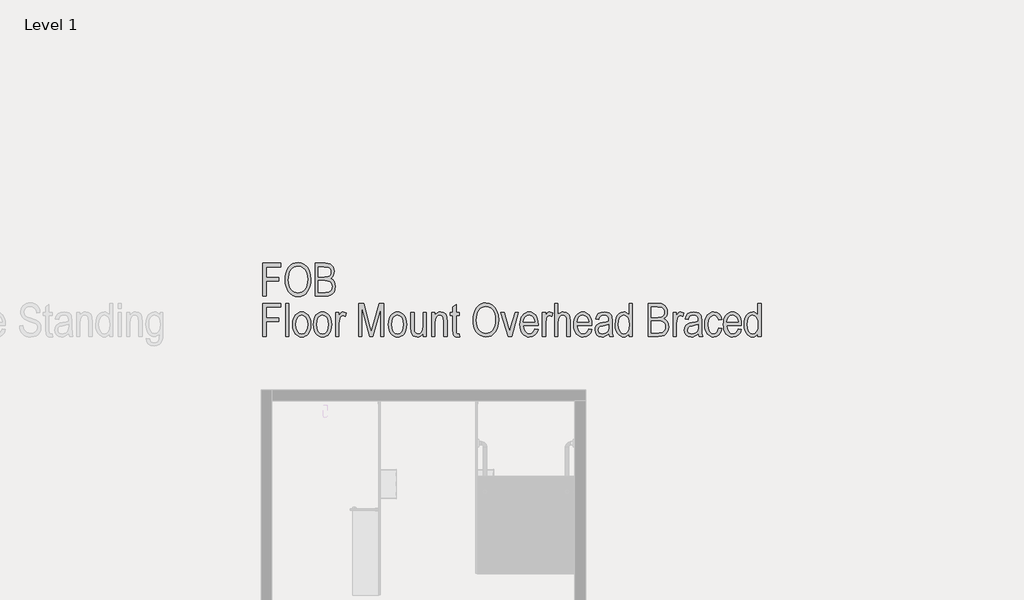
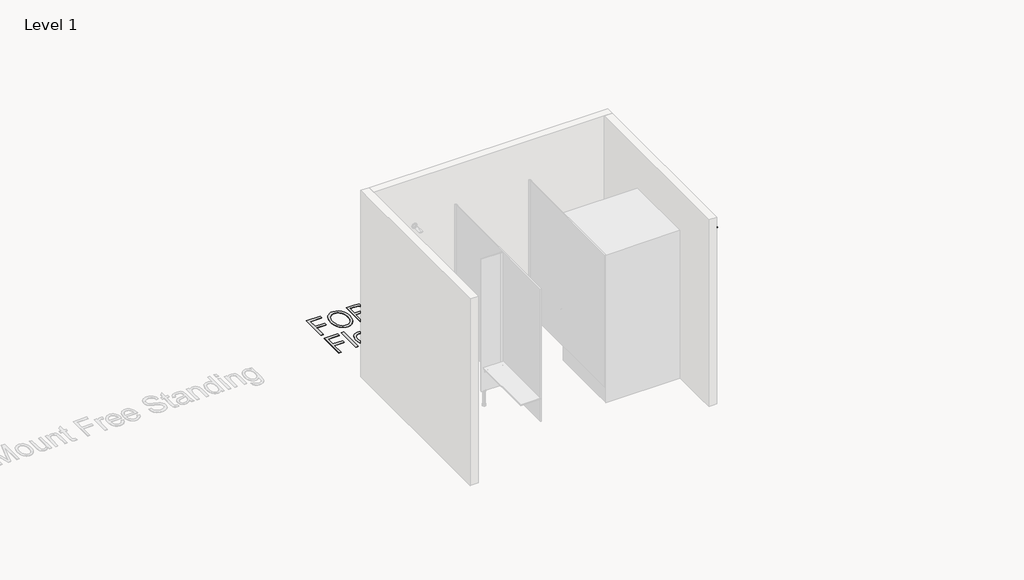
# One storey, part 21 of 21: 1 proxy.
"""IFC4 building model written with IfcOpenShell, lengths in millimetres."""

from ifc_helpers import new_model, si_unit, origin, origin_with_axes, place, context, project, spatial, polyline, outline, extrude, element, save

model = new_model("IFC4")

# Units and contexts
model_context = context("Model", 3, world=origin())
ifc_project = project(units=[si_unit("LENGTHUNIT", "METRE", prefix="MILLI")], contexts=[model_context])

# Site, building, storey
site = spatial("IfcSite", under=ifc_project)
building = spatial("IfcBuilding", under=site)
storey = spatial("IfcBuildingStorey", under=building, Name="Level 1", Elevation=0.0)

# Proxy
placement = place(None, origin())
element("IfcBuildingElementProxy", 1, Name="Arial Narrow-300mm", ObjectType="Arial Narrow-300mm", at=placement, inside=storey, context=model_context, shape_type="SweptSolid", body=[
    extrude(outline(polyline([(-1218.8829157, 11023.6753804), (-1218.8829157, 11328.8527498), (-1051.5275841, 11328.8527498), (-1051.5275841, 11294.3972403), (-1189.3496219, 11294.3972403), (-1189.3496219, 11195.9529276), (-1071.2164466, 11195.9529276), (-1071.2164466, 11161.4974182), (-1189.3496219, 11161.4974182), (-1189.3496219, 11023.6753804), (-1218.8829157, 11023.6753804)])), origin_with_axes(), (0.0, 0.0, 1.0), 5.0),
    extrude(outline(polyline([(-1012.149859, 11172.1878553), (-1010.0300376, 11208.8881642), (-1003.6705735, 11241.0796468), (-993.0714666, 11268.7623029), (-978.2327169, 11291.9361325), (-960.235866, 11310.2406219), (-940.1624554, 11323.3152572), (-918.012485, 11331.1600384), (-893.7859549, 11333.7749654), (-862.5991043, 11329.102706), (-834.2579096, 11315.0859279), (-810.1371302, 11292.1668614), (-791.6115257, 11260.7877367), (-779.8155128, 11221.7753323), (-775.8835085, 11175.9564266), (-777.7822148, 11143.6832276), (-783.4783334, 11114.5440956), (-792.9718646, 11088.5390306), (-806.2628082, 11065.6680325), (-824.3221481, 11045.1427779), (-844.9675741, 11030.4818817), (-868.199086, 11021.685344), (-894.0166838, 11018.7531648), (-920.016942, 11021.7622536), (-943.3349772, 11030.7895202), (-963.9707894, 11045.8349645), (-981.9243786, 11066.8985865), (-995.1480263, 11089.8320736), (-1004.5934889, 11115.0247807), (-1010.2607665, 11142.476708), (-1012.149859, 11172.1878553)]), holes=[polyline([(-982.6165652, 11171.7263976), (-981.0062701, 11145.1204761), (-976.1753846, 11121.6774628), (-968.1239088, 11101.3973576), (-956.8518427, 11084.2801604), (-943.2772949, 11070.6863852), (-928.318374, 11060.9765458), (-911.9750799, 11055.1506421), (-894.2474126, 11053.2086742), (-876.1303904, 11055.1698695), (-859.5419469, 11061.0534554), (-844.4820821, 11070.8594318), (-830.950796, 11084.5877989), (-819.7796738, 11102.1231921), (-811.8003008, 11123.350247), (-807.0126769, 11148.2689637), (-805.4168023, 11176.879342), (-808.7046886, 11214.1035978), (-818.5683472, 11247.1747341), (-831.2680481, 11268.497926), (-849.0630113, 11285.0911764), (-870.3573621, 11295.7623861), (-893.5552261, 11299.319456), (-912.116882, 11297.3702778), (-928.962492, 11291.5227433), (-944.0920562, 11281.7768525), (-957.5055745, 11268.1326053), (-968.4916329, 11250.4121484), (-976.3388175, 11228.4376281), (-981.0471283, 11202.2090445), (-982.6165652, 11171.7263976)])]), origin_with_axes(), (0.0, 0.0, 1.0), 5.0),
    extrude(outline(polyline([(-736.5057835, 11023.6753804), (-736.5057835, 11328.8527498), (-642.5222287, 11328.8527498), (-616.892098, 11326.680053), (-597.2224629, 11320.1619628), (-582.0520405, 11309.0389091), (-569.9195481, 11293.051322), (-561.9594025, 11273.6797116), (-559.3060206, 11252.4045882), (-561.4018077, 11232.7445668), (-567.6891691, 11215.1418776), (-577.7835566, 11200.2117978), (-591.3004222, 11188.5696042), (-573.9092346, 11177.7349616), (-560.6519389, 11161.2282345), (-552.2591767, 11139.6262452), (-549.4615893, 11113.5058157), (-552.2687904, 11087.13543), (-560.6903937, 11064.168295), (-573.7938701, 11045.8157371), (-590.6466905, 11033.2890828), (-612.8831841, 11026.078806), (-642.1376806, 11023.6753804), (-736.5057835, 11023.6753804)]), holes=[polyline([(-706.9724896, 11200.8751433), (-649.4440944, 11200.8751433), (-617.3727832, 11203.7977088), (-605.2499044, 11209.7582043), (-596.2610927, 11218.7181749), (-590.694759, 11231.0429414), (-588.8393144, 11247.0978245), (-590.5217123, 11262.3836113), (-595.5689061, 11274.862197), (-603.4136873, 11284.2259432), (-613.4888474, 11290.1672113), (-653.6741235, 11294.3972403), (-706.9724896, 11294.3972403), (-706.9724896, 11200.8751433)]), polyline([(-706.9724896, 11058.1308899), (-641.445494, 11058.1308899), (-609.4510924, 11061.9763708), (-596.3187749, 11069.3789217), (-586.7627547, 11080.3577698), (-580.936851, 11094.7783234), (-578.9948831, 11112.5059907), (-580.8599414, 11128.9742629), (-586.4551162, 11142.6930163), (-595.1939717, 11153.3738397), (-606.490072, 11160.728322), (-622.6699332, 11164.9968059), (-646.0600712, 11166.4196338), (-706.9724896, 11166.4196338), (-706.9724896, 11058.1308899)])]), origin_with_axes(), (0.0, 0.0, 1.0), 5.0),
    extrude(outline(polyline([(-1218.8829157, 10650.573168), (-1218.8829157, 10955.7505374), (-1051.5275841, 10955.7505374), (-1051.5275841, 10921.2950279), (-1189.3496219, 10921.2950279), (-1189.3496219, 10822.8507152), (-1071.2164466, 10822.8507152), (-1071.2164466, 10788.3952058), (-1189.3496219, 10788.3952058), (-1189.3496219, 10650.573168), (-1218.8829157, 10650.573168)])), origin_with_axes(), (0.0, 0.0, 1.0), 5.0),
    extrude(outline(polyline([(-1007.2276434, 10650.573168), (-1007.2276434, 10955.7505374), (-977.6943496, 10955.7505374), (-977.6943496, 10650.573168), (-1007.2276434, 10650.573168)])), origin_with_axes(), (0.0, 0.0, 1.0), 5.0),
    extrude(outline(polyline([(-943.2388401, 10761.3230198), (-941.75833, 10788.2149489), (-937.3167994, 10811.5930697), (-929.9142486, 10831.4573823), (-919.5506774, 10847.8078867), (-906.9182724, 10860.5772869), (-892.7092203, 10869.6982871), (-876.9235209, 10875.1708872), (-859.5611743, 10876.9950872), (-842.448784, 10875.1708872), (-826.7976765, 10869.6982871), (-812.6078518, 10860.5772869), (-799.8793098, 10847.8078867), (-789.3811467, 10831.6015879), (-781.8824588, 10812.1698919), (-777.3832461, 10789.5127987), (-775.8835085, 10763.6303084), (-777.3568084, 10735.7289405), (-781.7767081, 10711.629792), (-789.1432076, 10691.3328628), (-799.4563069, 10674.8381529), (-812.0526604, 10662.0687527), (-826.2689229, 10652.9477525), (-842.1050942, 10647.4751524), (-859.5611743, 10645.6509524), (-876.7672982, 10647.4799593), (-892.4688777, 10652.9669799), (-906.6659127, 10662.1120143), (-919.3584033, 10674.9150625), (-929.8060944, 10691.2896011), (-937.2687309, 10711.1491069), (-941.7463128, 10734.4935798), (-943.2388401, 10761.3230198)]), holes=[polyline([(-913.7055463, 10761.3999294), (-909.7543146, 10723.3681227), (-897.9006196, 10696.4882107), (-880.2017934, 10680.5102373), (-858.7151685, 10675.1842462), (-838.3533468, 10680.5583058), (-821.1063647, 10696.6804848), (-809.3391929, 10723.6084652), (-805.4168023, 10761.3999294), (-809.368034, 10799.3163717), (-821.2217291, 10826.1578289), (-838.9205553, 10842.1358023), (-860.4071801, 10847.4617934), (-880.9132074, 10842.1069612), (-898.1313484, 10826.0424644), (-909.8119968, 10799.1721662), (-913.7055463, 10761.3999294)])]), origin_with_axes(), (0.0, 0.0, 1.0), 5.0),
    extrude(outline(polyline([(-751.2724304, 10761.3230198), (-749.7919202, 10788.2149489), (-745.3503897, 10811.5930697), (-737.9478388, 10831.4573823), (-727.5842676, 10847.8078867), (-714.9518627, 10860.5772869), (-700.7428105, 10869.6982871), (-684.9571111, 10875.1708872), (-667.5947646, 10876.9950872), (-650.4823743, 10875.1708872), (-634.8312667, 10869.6982871), (-620.641442, 10860.5772869), (-607.9129, 10847.8078867), (-597.414737, 10831.6015879), (-589.9160491, 10812.1698919), (-585.4168363, 10789.5127987), (-583.9170988, 10763.6303084), (-585.3903987, 10735.7289405), (-589.8102984, 10711.629792), (-597.1767978, 10691.3328628), (-607.4898971, 10674.8381529), (-620.0862507, 10662.0687527), (-634.3025131, 10652.9477525), (-650.1386844, 10647.4751524), (-667.5947646, 10645.6509524), (-684.8008885, 10647.4799593), (-700.5024679, 10652.9669799), (-714.699503, 10662.1120143), (-727.3919936, 10674.9150625), (-737.8396847, 10691.2896011), (-745.3023212, 10711.1491069), (-749.7799031, 10734.4935798), (-751.2724304, 10761.3230198)]), holes=[polyline([(-721.7391366, 10761.3999294), (-717.7879049, 10723.3681227), (-705.9342098, 10696.4882107), (-688.2353836, 10680.5102373), (-666.7487588, 10675.1842462), (-646.386937, 10680.5583058), (-629.1399549, 10696.6804848), (-617.3727832, 10723.6084652), (-613.4503926, 10761.3999294), (-617.4016243, 10799.3163717), (-629.2553193, 10826.1578289), (-646.9541455, 10842.1358023), (-668.4407704, 10847.4617934), (-688.9467976, 10842.1069612), (-706.1649386, 10826.0424644), (-717.8455871, 10799.1721662), (-721.7391366, 10761.3999294)])]), origin_with_axes(), (0.0, 0.0, 1.0), 5.0),
    extrude(outline(polyline([(-544.5393737, 10650.573168), (-544.5393737, 10872.0728716), (-515.0060799, 10872.0728716), (-515.0060799, 10842.693397), (-505.1231938, 10859.9596065), (-496.0863135, 10870.2270407), (-486.9340688, 10875.3030756), (-476.7050895, 10876.9950872), (-461.5538945, 10874.5339794), (-446.095061, 10867.1506559), (-455.9394923, 10837.6173621), (-478.8585588, 10842.5395778), (-488.5011023, 10840.7802702), (-497.2784126, 10835.5023476), (-504.3829387, 10827.0711306), (-509.0071296, 10815.8519399), (-515.0060799, 10769.167801), (-515.0060799, 10650.573168), (-544.5393737, 10650.573168)])), origin_with_axes(), (0.0, 0.0, 1.0), 5.0),
    extrude(outline(polyline([(-332.8841014, 10650.573168), (-332.8841014, 10955.7505374), (-286.0461432, 10955.7505374), (-228.6715672, 10739.6345072), (-217.212034, 10694.4885606), (-203.8297602, 10743.4030785), (-143.7633475, 10955.7505374), (-101.5399665, 10955.7505374), (-101.5399665, 10650.573168), (-131.0732604, 10650.573168), (-131.0732604, 10910.8353197), (-204.2912179, 10650.573168), (-230.9019462, 10650.573168), (-303.3508076, 10925.4481474), (-303.3508076, 10650.573168), (-332.8841014, 10650.573168)])), origin_with_axes(), (0.0, 0.0, 1.0), 5.0),
    extrude(outline(polyline([(-57.2400258, 10761.3230198), (-55.7595157, 10788.2149489), (-51.3179851, 10811.5930697), (-43.9154343, 10831.4573823), (-33.5518631, 10847.8078867), (-20.9194581, 10860.5772869), (-6.7104059, 10869.6982871), (9.0752934, 10875.1708872), (26.43764, 10876.9950872), (43.5500303, 10875.1708872), (59.2011378, 10869.6982871), (73.3909626, 10860.5772869), (86.1195045, 10847.8078867), (96.6176676, 10831.6015879), (104.1163555, 10812.1698919), (108.6155682, 10789.5127987), (110.1153058, 10763.6303084), (108.6420059, 10735.7289405), (104.2221062, 10711.629792), (96.8556067, 10691.3328628), (86.5425075, 10674.8381529), (73.9461539, 10662.0687527), (59.7298914, 10652.9477525), (43.8937201, 10647.4751524), (26.43764, 10645.6509524), (9.2315161, 10647.4799593), (-6.4700634, 10652.9669799), (-20.6670984, 10662.1120143), (-33.359589, 10674.9150625), (-43.8072801, 10691.2896011), (-51.2699166, 10711.1491069), (-55.7474985, 10734.4935798), (-57.2400258, 10761.3230198)]), holes=[polyline([(-27.706732, 10761.3999294), (-23.7555003, 10723.3681227), (-11.9018052, 10696.4882107), (5.7970209, 10680.5102373), (27.2836458, 10675.1842462), (47.6454675, 10680.5583058), (64.8924496, 10696.6804848), (76.6596214, 10723.6084652), (80.582012, 10761.3999294), (76.6307803, 10799.3163717), (64.7770852, 10826.1578289), (47.078259, 10842.1358023), (25.5916342, 10847.4617934), (5.0856069, 10842.1069612), (-12.1325341, 10826.0424644), (-23.8131825, 10799.1721662), (-27.706732, 10761.3999294)])]), origin_with_axes(), (0.0, 0.0, 1.0), 5.0),
    extrude(outline(polyline([(262.7039905, 10650.573168), (262.7039905, 10680.4910099), (251.7443697, 10665.272519), (239.0158277, 10654.3801942), (224.5183645, 10647.8332628), (208.25198, 10645.6509524), (189.4283507, 10648.5446768), (173.5657417, 10657.2258501), (161.5678411, 10670.3389402), (154.3383369, 10686.528415), (149.4930308, 10734.8661108), (149.4930308, 10872.0728716), (179.0263247, 10872.0728716), (179.0263247, 10747.4792883), (182.3718931, 10701.0643331), (187.1499032, 10690.4988741), (194.7927966, 10682.2599312), (204.502636, 10676.9531674), (215.4814842, 10675.1842462), (235.0934371, 10679.7795959), (250.8599091, 10693.5656452), (259.7429701, 10716.023254), (262.7039905, 10751.7093174), (262.7039905, 10872.0728716), (292.2372843, 10872.0728716), (292.2372843, 10650.573168), (262.7039905, 10650.573168)])), origin_with_axes(), (0.0, 0.0, 1.0), 5.0),
    extrude(outline(polyline([(341.4594406, 10650.573168), (341.4594406, 10872.0728716), (370.9927344, 10872.0728716), (370.9927344, 10843.4624932), (381.5101249, 10858.1810716), (394.1425298, 10868.6503935), (408.8322671, 10874.9089138), (425.5216545, 10876.9950872), (451.0171933, 10871.2653206), (469.9369596, 10856.2679448), (480.6658515, 10832.195234), (484.203694, 10786.7031942), (484.203694, 10650.573168), (454.6704002, 10650.573168), (454.6704002, 10787.3184711), (450.6326452, 10823.5429018), (445.4508596, 10833.6949716), (437.9810128, 10841.2321142), (428.6749489, 10845.9043736), (417.9845118, 10847.4617934), (398.6994248, 10843.2798329), (383.7597312, 10830.7339512), (374.1844836, 10808.0359998), (370.9927344, 10773.39783), (370.9927344, 10650.573168), (341.4594406, 10650.573168)])), origin_with_axes(), (0.0, 0.0, 1.0), 5.0),
    extrude(outline(polyline([(597.4146536, 10675.1842462), (602.3368693, 10645.6509524), (580.0330797, 10645.6509524), (565.9970741, 10647.2564407), (554.9605438, 10652.0729056), (546.9234886, 10659.6773442), (541.8859085, 10669.6467536), (538.348066, 10714.0236039), (538.348066, 10842.5395778), (513.7369878, 10842.5395778), (513.7369878, 10872.0728716), (538.348066, 10872.0728716), (538.348066, 10921.2950279), (567.8813598, 10945.9061061), (567.8813598, 10872.0728716), (597.4146536, 10872.0728716), (597.4146536, 10842.5395778), (567.8813598, 10842.5395778), (567.8813598, 10707.2555574), (570.4962869, 10683.0290273), (575.8415054, 10677.1454415), (584.4938376, 10675.1842462), (597.4146536, 10675.1842462)])), origin_with_axes(), (0.0, 0.0, 1.0), 5.0),
    extrude(outline(polyline([(725.3922601, 10799.0856429), (727.5120815, 10835.7859518), (733.8715457, 10867.9774344), (744.4706526, 10895.6600905), (759.3094023, 10918.8339201), (777.3062532, 10937.1384095), (797.3796638, 10950.2130448), (819.5296342, 10958.057826), (843.7561642, 10960.672753), (874.9430149, 10956.0004936), (903.2842096, 10941.9837155), (927.4049889, 10919.064649), (945.9305935, 10887.6855243), (957.7266063, 10848.6731199), (961.6586106, 10802.8542142), (959.7599044, 10770.5810152), (954.0637857, 10741.4418832), (944.5702546, 10715.4368182), (931.279311, 10692.5658201), (913.219971, 10672.0405655), (892.5745451, 10657.3796693), (869.3430332, 10648.5831316), (843.5254354, 10645.6509524), (817.5251772, 10648.6600412), (794.207142, 10657.6873078), (773.5713298, 10672.7327521), (755.6177405, 10693.7963741), (742.3940929, 10716.7298612), (732.9486302, 10741.9225683), (727.2813527, 10769.3744956), (725.3922601, 10799.0856429)]), holes=[polyline([(754.925554, 10798.6241852), (756.5358491, 10772.0182637), (761.3667346, 10748.5752504), (769.4182103, 10728.2951452), (780.6902764, 10711.177948), (794.2648242, 10697.5841728), (809.2237452, 10687.8743334), (825.5670393, 10682.0484297), (843.2947065, 10680.1064618), (861.4117287, 10682.0676571), (878.0001722, 10687.951243), (893.0600371, 10697.7572194), (906.5913232, 10711.4855865), (917.7624454, 10729.0209797), (925.7418184, 10750.2480346), (930.5294422, 10775.1667513), (932.1253168, 10803.7771296), (928.8374306, 10841.0013854), (918.9737719, 10874.0725217), (906.274071, 10895.3957136), (888.4791079, 10911.988964), (867.184757, 10922.6601737), (843.9868931, 10926.2172436), (825.4252372, 10924.2680654), (808.5796271, 10918.4205309), (793.4500629, 10908.6746401), (780.0365447, 10895.0303929), (769.0504862, 10877.309936), (761.2033016, 10855.3354157), (756.4949909, 10829.1068321), (754.925554, 10798.6241852)])]), origin_with_axes(), (0.0, 0.0, 1.0), 5.0),
    extrude(outline(polyline([(1050.1046728, 10650.573168), (980.4245577, 10872.0728716), (1010.880767, 10872.0728716), (1050.6430402, 10739.4806879), (1062.5640311, 10694.8731087), (1073.7928356, 10737.0195801), (1114.2472953, 10872.0728716), (1144.7035046, 10872.0728716), (1080.176334, 10650.573168), (1050.1046728, 10650.573168)])), origin_with_axes(), (0.0, 0.0, 1.0), 5.0),
    extrude(outline(polyline([(1296.3692738, 10719.4841869), (1325.9025676, 10714.5619713), (1314.6929906, 10684.6056745), (1297.0614604, 10663.0325263), (1273.7193909, 10649.9963459), (1245.3781962, 10645.6509524), (1226.8862396, 10647.4799593), (1210.2497276, 10652.9669799), (1195.4686601, 10662.1120143), (1182.5430372, 10674.9150625), (1172.0448742, 10691.1742367), (1164.5461863, 10710.6876492), (1160.0469736, 10733.4552999), (1158.547236, 10759.4771889), (1160.0541839, 10786.4268002), (1164.5750274, 10809.9779677), (1172.1097667, 10830.1306914), (1182.6584017, 10846.8849713), (1195.5143252, 10860.058147), (1209.9709302, 10869.4675582), (1226.0282167, 10875.113205), (1243.6861846, 10876.9950872), (1260.6038974, 10875.1780975), (1276.0555206, 10869.7271282), (1290.0410542, 10860.6421794), (1302.5604982, 10847.9232511), (1312.8735974, 10831.7626174), (1320.2400969, 10812.3525522), (1324.6599966, 10789.6930556), (1326.1332965, 10763.7841276), (1325.9025676, 10753.9396963), (1188.0805298, 10753.9396963), (1193.6276361, 10719.6764609), (1206.2696548, 10695.026928), (1224.2376646, 10680.1449166), (1245.7627443, 10675.1842462), (1262.5674961, 10677.9529925), (1276.6035016, 10686.2592314), (1287.8707609, 10700.1029628), (1296.3692738, 10719.4841869)]), holes=[polyline([(1190.0801799, 10783.4729902), (1296.3692738, 10783.4729902), (1292.0623351, 10808.7378001), (1283.4484578, 10826.6961962), (1265.7977001, 10842.2703941), (1243.9169134, 10847.4617934), (1223.8242754, 10843.1356273), (1206.9233866, 10830.1571291), (1195.0600778, 10809.8337622), (1190.0801799, 10783.4729902)])]), origin_with_axes(), (0.0, 0.0, 1.0), 5.0),
    extrude(outline(polyline([(1365.2802927, 10650.573168), (1365.2802927, 10872.0728716), (1394.8135865, 10872.0728716), (1394.8135865, 10842.693397), (1404.6964726, 10859.9596065), (1413.7333529, 10870.2270407), (1422.8855975, 10875.3030756), (1433.1145769, 10876.9950872), (1448.2657719, 10874.5339794), (1463.7246054, 10867.1506559), (1453.8801741, 10837.6173621), (1430.9611076, 10842.5395778), (1421.3185641, 10840.7802702), (1412.5412538, 10835.5023476), (1405.4367277, 10827.0711306), (1400.8125368, 10815.8519399), (1394.8135865, 10769.167801), (1394.8135865, 10650.573168), (1365.2802927, 10650.573168)])), origin_with_axes(), (0.0, 0.0, 1.0), 5.0),
    extrude(outline(polyline([(1478.4912523, 10650.573168), (1478.4912523, 10955.7505374), (1508.0245461, 10955.7505374), (1508.0245461, 10849.3845339), (1519.1668272, 10861.4881852), (1531.674254, 10870.1116763), (1545.5468266, 10875.2742345), (1560.7845449, 10876.9950872), (1585.8378534, 10872.3805101), (1605.007576, 10858.5367786), (1612.1072953, 10847.3848838), (1617.1785233, 10832.387508), (1621.2355057, 10790.8563136), (1621.2355057, 10650.573168), (1591.7022119, 10650.573168), (1591.7022119, 10792.9328733), (1589.2314904, 10817.9669544), (1581.8193258, 10834.7717062), (1570.0809952, 10844.2892716), (1554.6317754, 10847.4617934), (1536.6926067, 10843.3951973), (1521.6375487, 10831.1954089), (1511.4277968, 10808.6320494), (1508.0245461, 10773.4747396), (1508.0245461, 10650.573168), (1478.4912523, 10650.573168)])), origin_with_axes(), (0.0, 0.0, 1.0), 5.0),
    extrude(outline(polyline([(1793.5130529, 10719.4841869), (1823.0463468, 10714.5619713), (1811.8367697, 10684.6056745), (1794.2052395, 10663.0325263), (1770.8631701, 10649.9963459), (1742.5219753, 10645.6509524), (1724.0300188, 10647.4799593), (1707.3935067, 10652.9669799), (1692.6124393, 10662.1120143), (1679.6868164, 10674.9150625), (1669.1886533, 10691.1742367), (1661.6899655, 10710.6876492), (1657.1907527, 10733.4552999), (1655.6910152, 10759.4771889), (1657.197963, 10786.4268002), (1661.7188066, 10809.9779677), (1669.2535458, 10830.1306914), (1679.8021808, 10846.8849713), (1692.6581044, 10860.058147), (1707.1147094, 10869.4675582), (1723.1719958, 10875.113205), (1740.8299637, 10876.9950872), (1757.7476765, 10875.1780975), (1773.1992997, 10869.7271282), (1787.1848333, 10860.6421794), (1799.7042773, 10847.9232511), (1810.0173766, 10831.7626174), (1817.383876, 10812.3525522), (1821.8037757, 10789.6930556), (1823.2770756, 10763.7841276), (1823.0463468, 10753.9396963), (1685.224309, 10753.9396963), (1690.7714153, 10719.6764609), (1703.4134339, 10695.026928), (1721.3814437, 10680.1449166), (1742.9065234, 10675.1842462), (1759.7112753, 10677.9529925), (1773.7472808, 10686.2592314), (1785.01454, 10700.1029628), (1793.5130529, 10719.4841869)]), holes=[polyline([(1687.2239591, 10783.4729902), (1793.5130529, 10783.4729902), (1789.2061143, 10808.7378001), (1780.5922369, 10826.6961962), (1762.9414793, 10842.2703941), (1741.0606926, 10847.4617934), (1720.9680545, 10843.1356273), (1704.0671657, 10830.1571291), (1692.2038569, 10809.8337622), (1687.2239591, 10783.4729902)])]), origin_with_axes(), (0.0, 0.0, 1.0), 5.0),
    extrude(outline(polyline([(1980.5572471, 10678.1068117), (1964.9349807, 10663.9554418), (1948.6782099, 10653.803372), (1931.7869347, 10647.6890573), (1914.2611552, 10645.6509524), (1888.9578905, 10649.9386636), (1869.3459376, 10662.8017975), (1856.7712148, 10682.9136629), (1852.5796406, 10708.9475691), (1854.5889044, 10727.0790118), (1860.6166958, 10743.0185304), (1870.1246475, 10756.2373712), (1882.5743921, 10766.2067806), (1900.0905579, 10773.4651259), (1924.7977731, 10778.5507745), (1957.7343175, 10785.3572758), (1980.5572471, 10793.3174214), (1980.5572471, 10802.7773046), (1978.4614599, 10821.889345), (1972.1740986, 10834.3102485), (1957.2536324, 10844.1739072), (1936.0265775, 10847.4617934), (1916.7991727, 10845.3948474), (1903.1092604, 10839.1940093), (1893.6301499, 10827.282632), (1887.03515, 10808.0840683), (1857.5018562, 10813.006284), (1867.2886053, 10841.9146871), (1883.7280364, 10861.7285278), (1907.743065, 10873.1784474), (1940.2566066, 10876.9950872), (1965.8482824, 10874.3128642), (1985.2487339, 10866.2661953), (1998.5444843, 10854.258681), (2005.822057, 10839.6939219), (2010.0905409, 10793.394331), (2010.0905409, 10743.3261689), (2012.090191, 10677.1454415), (2019.9349722, 10650.573168), (1990.4016783, 10650.573168), (1984.1719992, 10663.2248004), (1980.5572471, 10678.1068117)]), holes=[polyline([(1980.5572471, 10763.7841276), (1958.4649589, 10755.7470724), (1927.7203386, 10749.0174807), (1899.2253247, 10741.288064), (1886.6121471, 10728.9825249), (1882.1129344, 10710.6395807), (1884.6894066, 10696.1132763), (1892.4188234, 10684.8364034), (1904.705135, 10677.5972855), (1920.9522921, 10675.1842462), (1937.4686329, 10677.3665566), (1952.4083264, 10683.913488), (1964.7715477, 10694.1040125), (1973.5584717, 10707.2171026), (1978.8075532, 10725.1274302), (1980.5572471, 10749.7096673), (1980.5572471, 10763.7841276)])]), origin_with_axes(), (0.0, 0.0, 1.0), 5.0),
    extrude(outline(polyline([(2167.6014412, 10650.573168), (2167.6014412, 10677.3377155), (2158.1127169, 10663.7150992), (2146.2590218, 10653.7649172), (2132.6940877, 10647.6794436), (2118.0716464, 10645.6509524), (2102.6849157, 10647.5472552), (2088.3653059, 10653.2361636), (2075.1128171, 10662.7176776), (2062.9274493, 10675.9917972), (2052.7321179, 10692.7028154), (2045.4497384, 10712.4950252), (2041.0803106, 10735.3684267), (2039.6238347, 10761.3230198), (2042.2579892, 10796.1534636), (2050.1604525, 10825.2733682), (2062.4563779, 10848.15398), (2078.2709184, 10864.2665452), (2096.8157503, 10873.8129517), (2117.3025502, 10876.9950872), (2132.1268793, 10875.0723467), (2145.8360189, 10869.3041253), (2157.853147, 10860.0941984), (2167.6014412, 10847.8463415), (2167.6014412, 10955.7505374), (2197.134735, 10955.7505374), (2197.134735, 10650.573168), (2167.6014412, 10650.573168)]), holes=[polyline([(2069.1571285, 10761.0922909), (2072.8968587, 10723.098939), (2084.1160495, 10696.3343915), (2100.315138, 10680.4717825), (2118.9945618, 10675.1842462), (2137.3759608, 10680.2602811), (2153.1424328, 10695.4883857), (2163.9866891, 10720.9839245), (2167.6014412, 10756.8622619), (2163.9866891, 10797.7012697), (2153.1424328, 10825.7732808), (2136.7991387, 10842.0396652), (2116.6872732, 10847.4617934), (2098.5846716, 10842.2511667), (2083.193134, 10826.6192866), (2072.6661299, 10799.8162843), (2069.1571285, 10761.0922909)])]), origin_with_axes(), (0.0, 0.0, 1.0), 5.0),
    extrude(outline(polyline([(2344.8012041, 10650.573168), (2344.8012041, 10955.7505374), (2438.7847588, 10955.7505374), (2464.4148895, 10953.5778406), (2484.0845246, 10947.0597504), (2499.254947, 10935.9366967), (2511.3874395, 10919.9491096), (2519.3475851, 10900.5774992), (2522.0009669, 10879.3023758), (2519.9051798, 10859.6423544), (2513.6178184, 10842.0396652), (2503.5234309, 10827.1095854), (2490.0065653, 10815.4673918), (2507.397753, 10804.6327492), (2520.6550486, 10788.1260221), (2529.0478108, 10766.5240328), (2531.8453982, 10740.4036033), (2529.0381971, 10714.0332176), (2520.6165938, 10691.0660826), (2507.5131174, 10672.7135247), (2490.6602971, 10660.1868704), (2468.4238034, 10652.9765936), (2439.1693069, 10650.573168), (2344.8012041, 10650.573168)]), holes=[polyline([(2374.3344979, 10827.7729309), (2431.8628931, 10827.7729309), (2463.9342044, 10830.6954964), (2476.0570831, 10836.6559919), (2485.0458949, 10845.6159625), (2490.6122286, 10857.940729), (2492.4676731, 10873.9956121), (2490.7852752, 10889.2813989), (2485.7380814, 10901.7599846), (2477.8933003, 10911.1237308), (2467.8181401, 10917.0649989), (2427.632864, 10921.2950279), (2374.3344979, 10921.2950279), (2374.3344979, 10827.7729309)]), polyline([(2374.3344979, 10685.0286775), (2439.8614935, 10685.0286775), (2471.8558951, 10688.8741584), (2484.9882126, 10696.2767093), (2494.5442328, 10707.2555574), (2500.3701365, 10721.676111), (2502.3121044, 10739.4037783), (2500.4470461, 10755.8720505), (2494.8518713, 10769.5908039), (2486.1130158, 10780.2716272), (2474.8169155, 10787.6261096), (2458.6370543, 10791.8945935), (2435.2469164, 10793.3174214), (2374.3344979, 10793.3174214), (2374.3344979, 10685.0286775)])]), origin_with_axes(), (0.0, 0.0, 1.0), 5.0),
    extrude(outline(polyline([(2576.1453389, 10650.573168), (2576.1453389, 10872.0728716), (2605.6786327, 10872.0728716), (2605.6786327, 10842.693397), (2615.5615188, 10859.9596065), (2624.5983991, 10870.2270407), (2633.7506438, 10875.3030756), (2643.9796231, 10876.9950872), (2659.1308181, 10874.5339794), (2674.5896516, 10867.1506559), (2664.7452203, 10837.6173621), (2641.8261538, 10842.5395778), (2632.1836103, 10840.7802702), (2623.4063, 10835.5023476), (2616.3017739, 10827.0711306), (2611.677583, 10815.8519399), (2605.6786327, 10769.167801), (2605.6786327, 10650.573168), (2576.1453389, 10650.573168)])), origin_with_axes(), (0.0, 0.0, 1.0), 5.0),
    extrude(outline(polyline([(2807.4894738, 10678.1068117), (2791.8672073, 10663.9554418), (2775.6104366, 10653.803372), (2758.7191614, 10647.6890573), (2741.1933819, 10645.6509524), (2715.8901172, 10649.9386636), (2696.2781643, 10662.8017975), (2683.7034415, 10682.9136629), (2679.5118672, 10708.9475691), (2681.5211311, 10727.0790118), (2687.5489225, 10743.0185304), (2697.0568741, 10756.2373712), (2709.5066188, 10766.2067806), (2727.0227846, 10773.4651259), (2751.7299998, 10778.5507745), (2784.6665442, 10785.3572758), (2807.4894738, 10793.3174214), (2807.4894738, 10802.7773046), (2805.3936866, 10821.889345), (2799.1063253, 10834.3102485), (2784.1858591, 10844.1739072), (2762.9588042, 10847.4617934), (2743.7313994, 10845.3948474), (2730.0414871, 10839.1940093), (2720.5623765, 10827.282632), (2713.9673767, 10808.0840683), (2684.4340829, 10813.006284), (2694.2208319, 10841.9146871), (2710.6602631, 10861.7285278), (2734.6752917, 10873.1784474), (2767.1888332, 10876.9950872), (2792.7805091, 10874.3128642), (2812.1809605, 10866.2661953), (2825.476711, 10854.258681), (2832.7542837, 10839.6939219), (2837.0227676, 10793.394331), (2837.0227676, 10743.3261689), (2839.0224177, 10677.1454415), (2846.8671988, 10650.573168), (2817.333905, 10650.573168), (2811.1042259, 10663.2248004), (2807.4894738, 10678.1068117)]), holes=[polyline([(2807.4894738, 10763.7841276), (2785.3971856, 10755.7470724), (2754.6525653, 10749.0174807), (2726.1575514, 10741.288064), (2713.5443738, 10728.9825249), (2709.0451611, 10710.6395807), (2711.6216333, 10696.1132763), (2719.35105, 10684.8364034), (2731.6373617, 10677.5972855), (2747.8845188, 10675.1842462), (2764.4008595, 10677.3665566), (2779.3405531, 10683.913488), (2791.7037744, 10694.1040125), (2800.4906984, 10707.2171026), (2805.7397799, 10725.1274302), (2807.4894738, 10749.7096673), (2807.4894738, 10763.7841276)])]), origin_with_axes(), (0.0, 0.0, 1.0), 5.0),
    extrude(outline(polyline([(2994.5336679, 10729.3286182), (3024.0669617, 10724.4064025), (3014.9820129, 10690.5757837), (2998.0330556, 10665.8397274), (2975.0659205, 10650.6981461), (2947.9264386, 10645.6509524), (2930.9486401, 10647.4799593), (2915.5474889, 10652.9669799), (2901.7229848, 10662.1120143), (2889.4751279, 10674.9150625), (2879.4480363, 10691.3040217), (2872.285828, 10711.2067891), (2867.988503, 10734.6233648), (2866.5560614, 10761.5537487), (2868.0317647, 10788.5946901), (2872.4588747, 10812.0353), (2879.8373913, 10831.8755784), (2890.1673145, 10848.1155252), (2902.81414, 10860.7503336), (2917.1433635, 10869.7751967), (2933.1549848, 10875.1901146), (2950.8490041, 10876.9950872), (2977.1424802, 10872.6881485), (2998.955971, 10859.7673325), (3015.0204677, 10838.2326391), (3024.0669617, 10808.0840683), (2994.5336679, 10803.1618527), (2988.2270791, 10822.5911453), (2978.5364671, 10836.425263), (2966.0194265, 10844.7026608), (2951.2335522, 10847.4617934), (2929.4392889, 10842.3569174), (2911.7404627, 10827.0422895), (2900.0021321, 10800.6142216), (2896.0893552, 10762.1690256), (2899.7329484, 10722.5990265), (2910.663728, 10695.7191145), (2927.2858195, 10680.3179633), (2948.0033482, 10675.1842462), (2964.5485301, 10678.4817461), (2978.4980123, 10688.3742459), (2988.8327424, 10705.2078388), (2994.5336679, 10729.3286182)])), origin_with_axes(), (0.0, 0.0, 1.0), 5.0),
    extrude(outline(polyline([(3176.6556464, 10719.4841869), (3206.1889402, 10714.5619713), (3194.9793632, 10684.6056745), (3177.347833, 10663.0325263), (3154.0057635, 10649.9963459), (3125.6645688, 10645.6509524), (3107.1726122, 10647.4799593), (3090.5361002, 10652.9669799), (3075.7550327, 10662.1120143), (3062.8294098, 10674.9150625), (3052.3312468, 10691.1742367), (3044.8325589, 10710.6876492), (3040.3333462, 10733.4552999), (3038.8336086, 10759.4771889), (3040.3405565, 10786.4268002), (3044.8614, 10809.9779677), (3052.3961393, 10830.1306914), (3062.9447743, 10846.8849713), (3075.8006978, 10860.058147), (3090.2573028, 10869.4675582), (3106.3145893, 10875.113205), (3123.9725572, 10876.9950872), (3140.89027, 10875.1780975), (3156.3418932, 10869.7271282), (3170.3274268, 10860.6421794), (3182.8468707, 10847.9232511), (3193.15997, 10831.7626174), (3200.5264695, 10812.3525522), (3204.9463692, 10789.6930556), (3206.4196691, 10763.7841276), (3206.1889402, 10753.9396963), (3068.3669024, 10753.9396963), (3073.9140087, 10719.6764609), (3086.5560274, 10695.026928), (3104.5240372, 10680.1449166), (3126.0491169, 10675.1842462), (3142.8538687, 10677.9529925), (3156.8898742, 10686.2592314), (3168.1571335, 10700.1029628), (3176.6556464, 10719.4841869)]), holes=[polyline([(3070.3665525, 10783.4729902), (3176.6556464, 10783.4729902), (3172.3487077, 10808.7378001), (3163.7348303, 10826.6961962), (3146.0840727, 10842.2703941), (3124.203286, 10847.4617934), (3104.110648, 10843.1356273), (3087.2097591, 10830.1571291), (3075.3464504, 10809.8337622), (3070.3665525, 10783.4729902)])]), origin_with_axes(), (0.0, 0.0, 1.0), 5.0),
    extrude(outline(polyline([(3358.7776249, 10650.573168), (3358.7776249, 10677.3377155), (3349.2889006, 10663.7150992), (3337.4352055, 10653.7649172), (3323.8702714, 10647.6794436), (3309.2478301, 10645.6509524), (3293.8610993, 10647.5472552), (3279.5414896, 10653.2361636), (3266.2890008, 10662.7176776), (3254.103633, 10675.9917972), (3243.9083016, 10692.7028154), (3236.625922, 10712.4950252), (3232.2564943, 10735.3684267), (3230.8000184, 10761.3230198), (3233.4341728, 10796.1534636), (3241.3366362, 10825.2733682), (3253.6325616, 10848.15398), (3269.4471021, 10864.2665452), (3287.991934, 10873.8129517), (3308.4787339, 10876.9950872), (3323.303063, 10875.0723467), (3337.0122026, 10869.3041253), (3349.0293306, 10860.0941984), (3358.7776249, 10847.8463415), (3358.7776249, 10955.7505374), (3388.3109187, 10955.7505374), (3388.3109187, 10650.573168), (3358.7776249, 10650.573168)]), holes=[polyline([(3260.3333122, 10761.0922909), (3264.0730424, 10723.098939), (3275.2922331, 10696.3343915), (3291.4913217, 10680.4717825), (3310.1707455, 10675.1842462), (3328.5521445, 10680.2602811), (3344.3186165, 10695.4883857), (3355.1628728, 10720.9839245), (3358.7776249, 10756.8622619), (3355.1628728, 10797.7012697), (3344.3186165, 10825.7732808), (3327.9753224, 10842.0396652), (3307.8634569, 10847.4617934), (3289.7608553, 10842.2511667), (3274.3693177, 10826.6192866), (3263.8423136, 10799.8162843), (3260.3333122, 10761.0922909)])]), origin_with_axes(), (0.0, 0.0, 1.0), 5.0),
])

save(model, "model.ifc")
